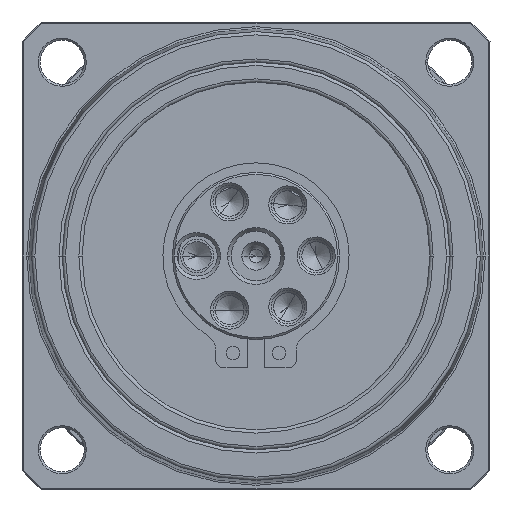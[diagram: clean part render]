
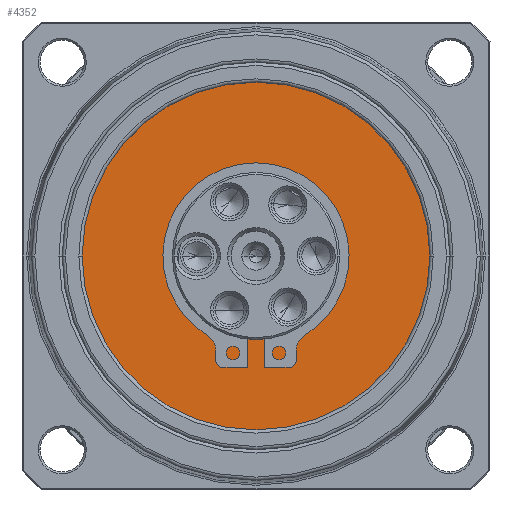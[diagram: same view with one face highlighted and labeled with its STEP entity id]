
A CAD part, left-side view. The second image highlights one B-rep face of the part: STEP entity #4352.
In plain terms, the highlighted planar face has unit normal (-1, 0, 0).
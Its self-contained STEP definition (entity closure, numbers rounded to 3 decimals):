
#3395=CARTESIAN_POINT('',(-32.,0.,0.));
#3396=DIRECTION('',(1.,0.,0.));
#3397=DIRECTION('',(0.,1.,0.));
#3398=AXIS2_PLACEMENT_3D('',#3395,#3396,#3397);
#3404=CARTESIAN_POINT('',(-32.,0.,0.));
#3405=DIRECTION('',(-1.,0.,0.));
#3406=DIRECTION('',(0.,1.,0.));
#3407=AXIS2_PLACEMENT_3D('',#3404,#3405,#3406);
#3423=CARTESIAN_POINT('',(-32.,0.,0.));
#3424=DIRECTION('',(-1.,0.,0.));
#3425=DIRECTION('',(0.,1.,0.));
#3426=AXIS2_PLACEMENT_3D('',#3423,#3424,#3425);
#3428=CARTESIAN_POINT('',(-32.,0.,0.));
#3429=DIRECTION('',(1.,0.,0.));
#3430=DIRECTION('',(0.,1.,0.));
#3431=AXIS2_PLACEMENT_3D('',#3428,#3429,#3430);
#3816=CARTESIAN_POINT('',(-32.,26.,0.));
#3818=VERTEX_POINT('',#3816);
#3820=CARTESIAN_POINT('',(-32.,-26.,0.));
#3822=VERTEX_POINT('',#3820);
#3823=CARTESIAN_POINT('',(-32.,12.5,0.));
#3824=CARTESIAN_POINT('',(-32.,-12.5,0.));
#3825=VERTEX_POINT('',#3823);
#3826=VERTEX_POINT('',#3824);
#4337=CARTESIAN_POINT('',(-32.,0.,0.));
#4338=DIRECTION('',(1.,0.,0.));
#4339=DIRECTION('',(0.,-1.,0.));
#4340=AXIS2_PLACEMENT_3D('',#4337,#4338,#4339);
#4341=PLANE('',#4340);
#4343=ORIENTED_EDGE('',*,*,#4342,.F.);
#4345=ORIENTED_EDGE('',*,*,#4344,.T.);
#4346=EDGE_LOOP('',(#4343,#4345));
#4347=FACE_OUTER_BOUND('',#4346,.F.);
#4348=ORIENTED_EDGE('',*,*,#4304,.F.);
#4349=ORIENTED_EDGE('',*,*,#4319,.T.);
#4350=EDGE_LOOP('',(#4348,#4349));
#4351=FACE_BOUND('',#4350,.F.);
#4352=ADVANCED_FACE('',(#4347,#4351),#4341,.F.);
#3399=CIRCLE('',#3398,12.5);
#3408=CIRCLE('',#3407,12.5);
#3427=CIRCLE('',#3426,26.);
#3432=CIRCLE('',#3431,26.);
#4304=EDGE_CURVE('',#3825,#3826,#3399,.T.);
#4319=EDGE_CURVE('',#3825,#3826,#3408,.T.);
#4342=EDGE_CURVE('',#3818,#3822,#3427,.T.);
#4344=EDGE_CURVE('',#3818,#3822,#3432,.T.);
